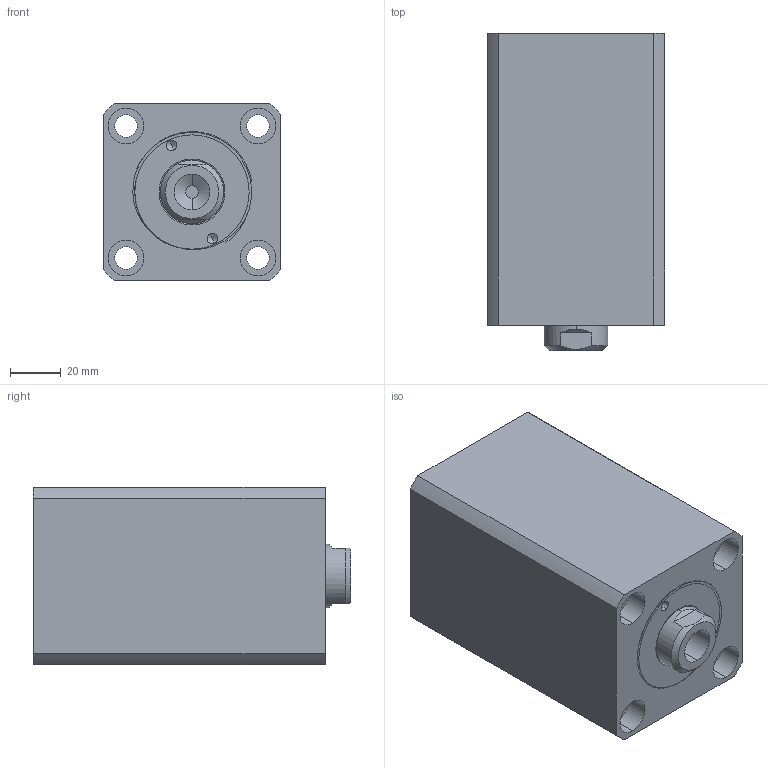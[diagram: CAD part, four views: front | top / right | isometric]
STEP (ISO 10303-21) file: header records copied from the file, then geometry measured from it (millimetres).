
FILE_DESCRIPTION (( 'STEP AP214' ), '1' );
FILE_NAME ('chtb-sdmb40x60n_asm.STEP', '2018-06-07T02:25:21', ( 'Windows' ), ( 'Microsoft' ), 'SwSTEP 2.0', 'SolidWorks 2015', '' );
FILE_SCHEMA (( 'AUTOMOTIVE_DESIGN' ));
Length unit declared in the file: millimetre
Products named in the file (4): CHTB-SD40QG; CHTB-SDMB40X60NBT; CHTB-SD40X60NHSG; chtb-sdmb40x60n_asm
Assembly tree (3 placements, depth 2):
  chtb-sdmb40x60n_asm
    CHTB-SD40X60NHSG
    CHTB-SDMB40X60NBT
    CHTB-SD40QG
Bounding box: 70 x 125 x 70 mm (x, y, z)
Volume: 469657.7 mm3; surface area: 95731.8 mm2
Topology: 3 solids, 3 shells, 155 faces, 407 edges, 270 vertices
Faces by surface type: cylinder 84, plane 34, torus 14, bspline 14, cone 9
Entity records: 10007 total; most frequent: CARTESIAN_POINT 6085, ORIENTED_EDGE 802, DIRECTION 758, EDGE_CURVE 401, AXIS2_PLACEMENT_3D 322, VERTEX_POINT 270, EDGE_LOOP 191, CIRCLE 175
